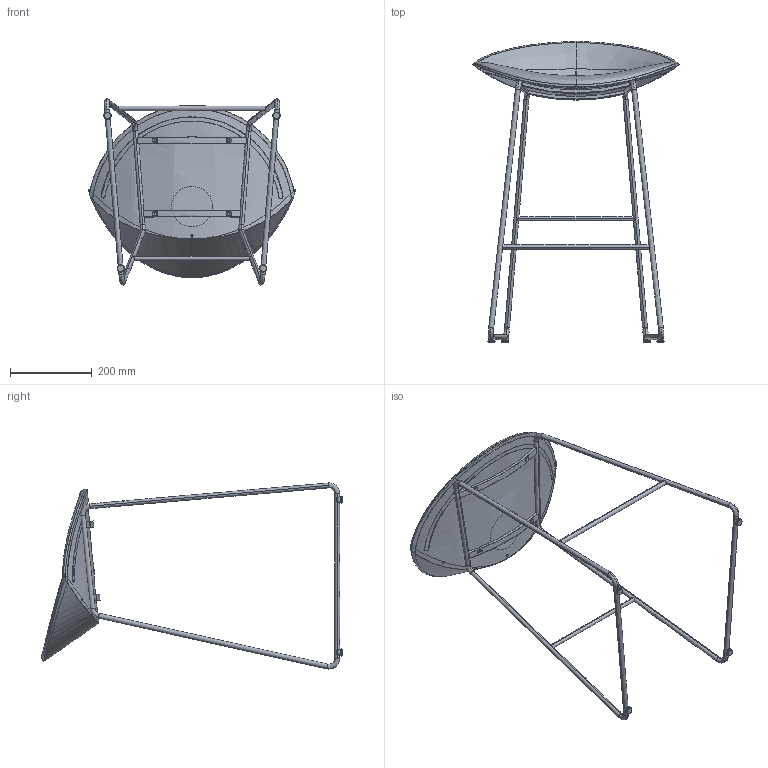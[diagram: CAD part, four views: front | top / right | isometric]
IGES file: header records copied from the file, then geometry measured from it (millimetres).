
Start section: SolidWorks IGES file using analytic representation for surfaces
Global section: file name: G:\Product Info\Mick\3d\igs\Mick buffet staf.IGS; native system: SolidWorks 2011; preprocessor: SolidWorks 2011; author: remko; date: 120111.110732; units: millimetre
Bounding box: 505.8 x 736.8 x 455.14 mm (x, y, z)
Surface area: 761737.4 mm2 (no closed solid volume)
Topology: 0 solids, 0 shells, 144 faces, 3247 edges, 3247 vertices
Faces by surface type: bspline 84, revolution 60
